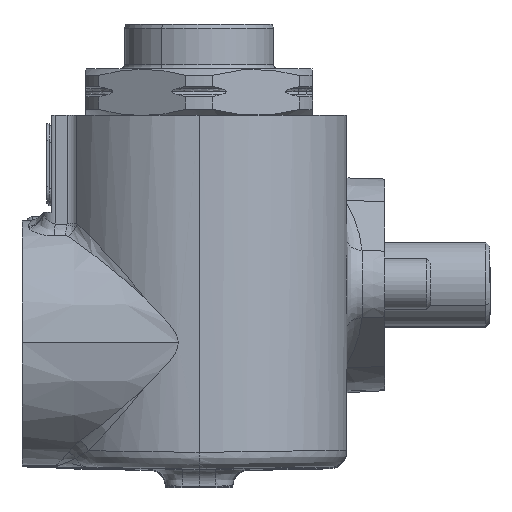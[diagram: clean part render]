
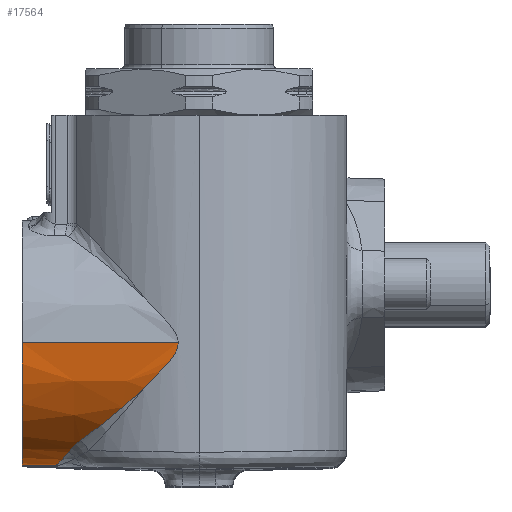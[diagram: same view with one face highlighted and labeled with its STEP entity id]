
A CAD part, top view. The second image highlights one B-rep face of the part: STEP entity #17564.
In plain terms, the highlighted conical face has half-angle 1 degrees and reference radius 14.5 mm.
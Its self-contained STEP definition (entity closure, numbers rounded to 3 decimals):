
#182 = EDGE_LOOP ( 'NONE', ( #35253, #8923, #21009, #31329, #33629, #17710, #27634 ) ) ;
#523 = CARTESIAN_POINT ( 'NONE',  ( -10.678, -21.297, 59.395 ) ) ;
#696 = CARTESIAN_POINT ( 'NONE',  ( -9.704, -20.245, 62.651 ) ) ;
#2180 = CARTESIAN_POINT ( 'NONE',  ( -15., -7., 56.5 ) ) ;
#2186 = CARTESIAN_POINT ( 'NONE',  ( 3.225, -8.108, 71.279 ) ) ;
#2852 = DIRECTION ( 'NONE',  ( -1., 0.017, 0. ) ) ;
#3183 = B_SPLINE_CURVE_WITH_KNOTS ( 'NONE', 3,
 ( #15496, #27795, #30525, #19717, #25417, #16631, #27972, #19897, #30866, #5855 ),
 .UNSPECIFIED., .F., .F.,
 ( 4, 2, 2, 2, 4 ),
 ( 0., 0.003, 0.006, 0.008, 0.011 ),
 .UNSPECIFIED. ) ;
#4227 = EDGE_CURVE ( 'NONE', #11701, #31759, #13619, .T. ) ;
#4577 = FACE_OUTER_BOUND ( 'NONE', #182, .T. ) ;
#4777 = CARTESIAN_POINT ( 'NONE',  ( 1.48, -10.346, 70.91 ) ) ;
#4952 = CARTESIAN_POINT ( 'NONE',  ( 3.519, -7., 71.323 ) ) ;
#5042 = AXIS2_PLACEMENT_3D ( 'NONE', #2180, #13281, #34713 ) ;
#5319 = CARTESIAN_POINT ( 'NONE',  ( 2.228, -9.501, 71.09 ) ) ;
#5725 = CARTESIAN_POINT ( 'NONE',  ( -15., -21.5, 56.5 ) ) ;
#5820 = B_SPLINE_CURVE_WITH_KNOTS ( 'NONE', 3,
 ( #20421, #25413, #20591, #8723, #523, #11606, #14564, #25767, #696, #11780 ),
 .UNSPECIFIED., .F., .F.,
 ( 4, 2, 2, 2, 4 ),
 ( 0., 0.002, 0.004, 0.005, 0.007 ),
 .UNSPECIFIED. ) ;
#5855 = CARTESIAN_POINT ( 'NONE',  ( -0.474, -12.326, 70.259 ) ) ;
#6002 = DIRECTION ( 'NONE',  ( 1., 0., 0.017 ) ) ;
#7492 = CARTESIAN_POINT ( 'NONE',  ( 3.08, -8.355, 71.255 ) ) ;
#7843 = CARTESIAN_POINT ( 'NONE',  ( -0.474, -12.326, 70.259 ) ) ;
#7931 = CONICAL_SURFACE ( 'NONE', #5042, 14.5, 0.017 ) ;
#8194 = CARTESIAN_POINT ( 'NONE',  ( 3.448, -7.576, 71.313 ) ) ;
#8249 = VERTEX_POINT ( 'NONE', #9416 ) ;
#8723 = CARTESIAN_POINT ( 'NONE',  ( -10.798, -21.398, 58.826 ) ) ;
#8914 = VERTEX_POINT ( 'NONE', #22452 ) ;
#8923 = ORIENTED_EDGE ( 'NONE', *, *, #9848, .T. ) ;
#9416 = CARTESIAN_POINT ( 'NONE',  ( -0.474, -12.326, 70.259 ) ) ;
#9848 = EDGE_CURVE ( 'NONE', #28113, #31759, #14471, .T. ) ;
#10124 = B_SPLINE_CURVE_WITH_KNOTS ( 'NONE', 3,
 ( #24870, #24497, #11256, #10722, #27797, #16978 ),
 .UNSPECIFIED., .F., .F.,
 ( 4, 2, 4 ),
 ( 0., 0.002, 0.003 ),
 .UNSPECIFIED. ) ;
#10541 = CARTESIAN_POINT ( 'NONE',  ( 2.76, -8.831, 71.198 ) ) ;
#10722 = CARTESIAN_POINT ( 'NONE',  ( -8.672, -19.06, 64.76 ) ) ;
#11256 = CARTESIAN_POINT ( 'NONE',  ( -9.159, -19.535, 64.002 ) ) ;
#11606 = CARTESIAN_POINT ( 'NONE',  ( -10.396, -21.028, 60.517 ) ) ;
#11701 = VERTEX_POINT ( 'NONE', #14596 ) ;
#11780 = CARTESIAN_POINT ( 'NONE',  ( -9.52, -19.989, 63.157 ) ) ;
#13281 = DIRECTION ( 'NONE',  ( 1., 0., 0. ) ) ;
#13619 = LINE ( 'NONE', #31000, #27086 ) ;
#14471 = CIRCLE ( 'NONE', #35485, 14.5 ) ;
#14564 = CARTESIAN_POINT ( 'NONE',  ( -10.236, -20.861, 61.068 ) ) ;
#14596 = CARTESIAN_POINT ( 'NONE',  ( -11.198, -21.566, 56.5 ) ) ;
#15496 = CARTESIAN_POINT ( 'NONE',  ( -8.055, -18.576, 65.432 ) ) ;
#15881 = CARTESIAN_POINT ( 'NONE',  ( 0.313, -11.549, 70.555 ) ) ;
#15949 = CARTESIAN_POINT ( 'NONE',  ( -15., -7., 71. ) ) ;
#16173 = DIRECTION ( 'NONE',  ( 1., 0., 0. ) ) ;
#16448 = CARTESIAN_POINT ( 'NONE',  ( 2.043, -9.715, 71.048 ) ) ;
#16631 = CARTESIAN_POINT ( 'NONE',  ( -3.695, -15.195, 68.718 ) ) ;
#16978 = CARTESIAN_POINT ( 'NONE',  ( -8.055, -18.576, 65.432 ) ) ;
#17564 = ADVANCED_FACE ( 'NONE', ( #4577 ), #7931, .T. ) ;
#17710 = ORIENTED_EDGE ( 'NONE', *, *, #32852, .T. ) ;
#18080 = VERTEX_POINT ( 'NONE', #27146 ) ;
#19110 = DIRECTION ( 'NONE',  ( 0., 0., -1. ) ) ;
#19717 = CARTESIAN_POINT ( 'NONE',  ( -5.619, -16.739, 67.483 ) ) ;
#19897 = CARTESIAN_POINT ( 'NONE',  ( -1.754, -13.532, 69.72 ) ) ;
#20421 = CARTESIAN_POINT ( 'NONE',  ( -11.198, -21.566, 56.5 ) ) ;
#20591 = CARTESIAN_POINT ( 'NONE',  ( -11.01, -21.534, 57.672 ) ) ;
#21009 = ORIENTED_EDGE ( 'NONE', *, *, #4227, .F. ) ;
#21251 = EDGE_CURVE ( 'NONE', #8914, #24649, #10124, .T. ) ;
#21734 = CARTESIAN_POINT ( 'NONE',  ( -0.08, -11.94, 70.415 ) ) ;
#22452 = CARTESIAN_POINT ( 'NONE',  ( -9.52, -19.989, 63.157 ) ) ;
#24497 = CARTESIAN_POINT ( 'NONE',  ( -9.36, -19.768, 63.595 ) ) ;
#24649 = VERTEX_POINT ( 'NONE', #29811 ) ;
#24870 = CARTESIAN_POINT ( 'NONE',  ( -9.52, -19.989, 63.157 ) ) ;
#25413 = CARTESIAN_POINT ( 'NONE',  ( -11.103, -21.568, 57.088 ) ) ;
#25417 = CARTESIAN_POINT ( 'NONE',  ( -4.98, -16.236, 67.923 ) ) ;
#25767 = CARTESIAN_POINT ( 'NONE',  ( -9.89, -20.47, 62.134 ) ) ;
#25898 = B_SPLINE_CURVE_WITH_KNOTS ( 'NONE', 3,
 ( #4952, #29803, #8194, #2186, #7492, #10541, #33069, #5319, #16448, #4777, #29624, #15881, #21734, #7843 ),
 .UNSPECIFIED., .F., .F.,
 ( 4, 2, 2, 2, 2, 2, 4 ),
 ( 0.023, 0.024, 0.025, 0.026, 0.026, 0.028, 0.03 ),
 .UNSPECIFIED. ) ;
#27086 = VECTOR ( 'NONE', #2852, 1000. ) ;
#27146 = CARTESIAN_POINT ( 'NONE',  ( 3.519, -7., 71.323 ) ) ;
#27534 = CARTESIAN_POINT ( 'NONE',  ( -15., -7., 56.5 ) ) ;
#27634 = ORIENTED_EDGE ( 'NONE', *, *, #35389, .F. ) ;
#27755 = LINE ( 'NONE', #31024, #29398 ) ;
#27795 = CARTESIAN_POINT ( 'NONE',  ( -7.469, -18.149, 66.002 ) ) ;
#27797 = CARTESIAN_POINT ( 'NONE',  ( -8.383, -18.815, 65.113 ) ) ;
#27972 = CARTESIAN_POINT ( 'NONE',  ( -3.048, -14.656, 69.076 ) ) ;
#28113 = VERTEX_POINT ( 'NONE', #15949 ) ;
#29398 = VECTOR ( 'NONE', #6002, 1000. ) ;
#29624 = CARTESIAN_POINT ( 'NONE',  ( 1.093, -10.752, 70.803 ) ) ;
#29803 = CARTESIAN_POINT ( 'NONE',  ( 3.519, -7.29, 71.323 ) ) ;
#29811 = CARTESIAN_POINT ( 'NONE',  ( -8.055, -18.576, 65.432 ) ) ;
#30525 = CARTESIAN_POINT ( 'NONE',  ( -6.863, -17.695, 66.523 ) ) ;
#30866 = CARTESIAN_POINT ( 'NONE',  ( -1.107, -12.947, 70.006 ) ) ;
#31000 = CARTESIAN_POINT ( 'NONE',  ( -17., -21.465, 56.5 ) ) ;
#31024 = CARTESIAN_POINT ( 'NONE',  ( -15., -7., 71. ) ) ;
#31329 = ORIENTED_EDGE ( 'NONE', *, *, #35934, .T. ) ;
#31759 = VERTEX_POINT ( 'NONE', #5725 ) ;
#32852 = EDGE_CURVE ( 'NONE', #24649, #8249, #3183, .T. ) ;
#33069 = CARTESIAN_POINT ( 'NONE',  ( 2.586, -9.06, 71.165 ) ) ;
#33629 = ORIENTED_EDGE ( 'NONE', *, *, #21251, .T. ) ;
#33963 = EDGE_CURVE ( 'NONE', #28113, #18080, #27755, .T. ) ;
#34713 = DIRECTION ( 'NONE',  ( 0., 0., 1. ) ) ;
#35253 = ORIENTED_EDGE ( 'NONE', *, *, #33963, .F. ) ;
#35389 = EDGE_CURVE ( 'NONE', #18080, #8249, #25898, .T. ) ;
#35485 = AXIS2_PLACEMENT_3D ( 'NONE', #27534, #16173, #19110 ) ;
#35934 = EDGE_CURVE ( 'NONE', #11701, #8914, #5820, .T. ) ;
